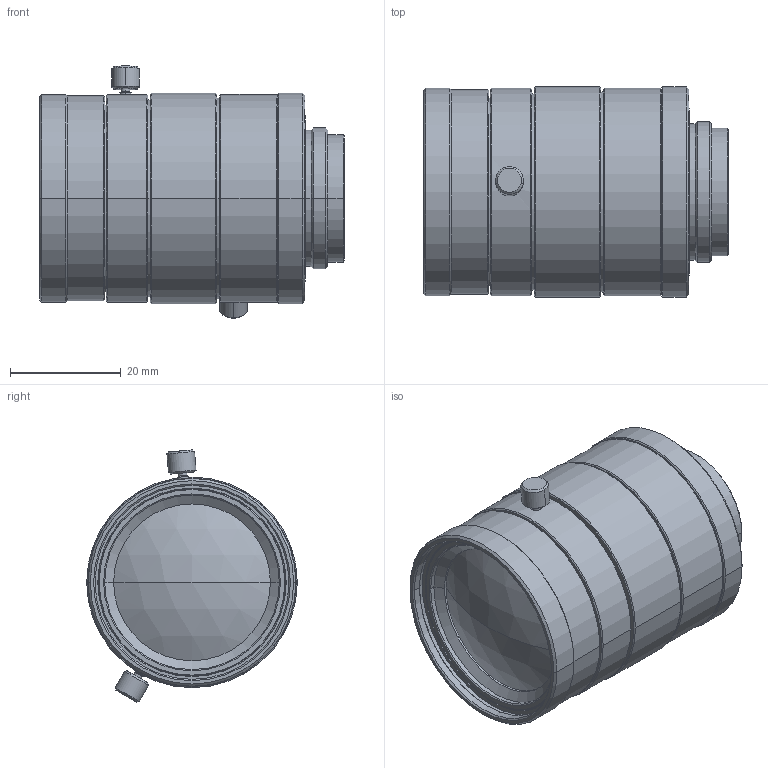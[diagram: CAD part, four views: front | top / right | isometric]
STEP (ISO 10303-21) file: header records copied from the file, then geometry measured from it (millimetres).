
FILE_DESCRIPTION (( 'STEP AP203' ), '1' );
FILE_NAME ('VS-1214H1.STEP', '2015-07-17T07:16:55', ( 'miura_vst' ), ( '' ), 'SwSTEP 2.0', 'SolidWorks 2015', '' );
FILE_SCHEMA (( 'CONFIG_CONTROL_DESIGN' ));
Length unit declared in the file: millimetre
Products named in the file (1): VS-1214H1
Bounding box: 55 x 38 x 45.51 mm (x, y, z)
Volume: 52739.7 mm3; surface area: 10025.7 mm2
Topology: 1 solids, 1 shells, 128 faces, 254 edges, 147 vertices
Faces by surface type: cone 60, cylinder 46, plane 20, sphere 2
Entity records: 3419 total; most frequent: DIRECTION 652, CARTESIAN_POINT 594, ORIENTED_EDGE 508, AXIS2_PLACEMENT_3D 273, EDGE_CURVE 254, EDGE_LOOP 147, VERTEX_POINT 147, CIRCLE 144
